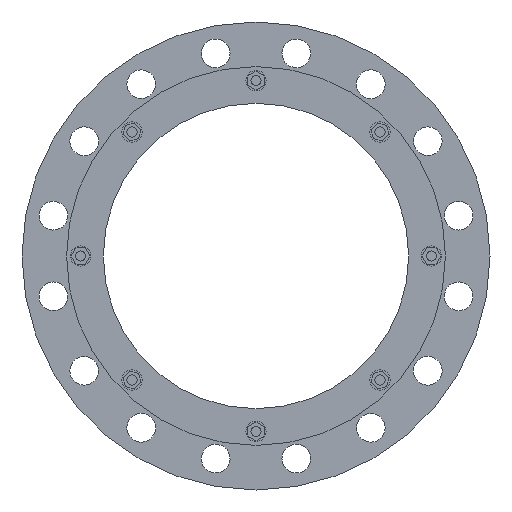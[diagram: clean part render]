
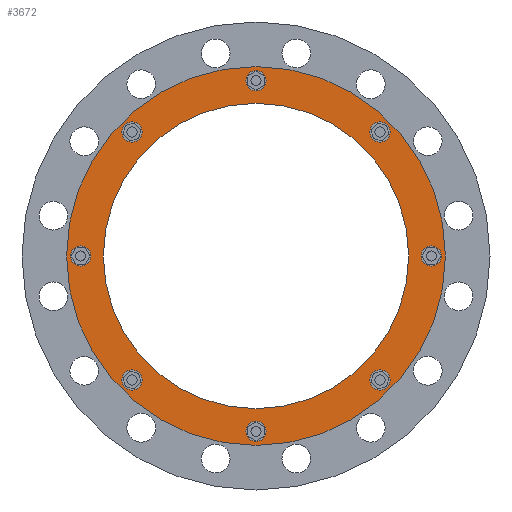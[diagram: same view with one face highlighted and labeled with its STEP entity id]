
A CAD part, front view. The second image highlights one B-rep face of the part: STEP entity #3672.
In plain terms, the highlighted planar face has unit normal (0, -1, 0).
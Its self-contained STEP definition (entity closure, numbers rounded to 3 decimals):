
#911=CARTESIAN_POINT('',(0.,-92.452,0.));
#912=DIRECTION('',(0.,-1.,0.));
#913=DIRECTION('',(1.,0.,0.));
#914=AXIS2_PLACEMENT_3D('',#911,#912,#913);
#916=CARTESIAN_POINT('',(0.,-92.452,0.));
#917=DIRECTION('',(0.,1.,0.));
#918=DIRECTION('',(1.,0.,0.));
#919=AXIS2_PLACEMENT_3D('',#916,#917,#918);
#921=CARTESIAN_POINT('',(208.,-92.452,0.));
#922=DIRECTION('',(0.,-1.,0.));
#923=DIRECTION('',(0.,0.,-1.));
#924=AXIS2_PLACEMENT_3D('',#921,#922,#923);
#926=CARTESIAN_POINT('',(208.,-92.452,0.));
#927=DIRECTION('',(0.,-1.,0.));
#928=DIRECTION('',(0.,0.,1.));
#929=AXIS2_PLACEMENT_3D('',#926,#927,#928);
#931=CARTESIAN_POINT('',(147.078,-92.452,147.078));
#932=DIRECTION('',(0.,-1.,0.));
#933=DIRECTION('',(0.707,0.,-0.707));
#934=AXIS2_PLACEMENT_3D('',#931,#932,#933);
#936=CARTESIAN_POINT('',(147.078,-92.452,147.078));
#937=DIRECTION('',(0.,-1.,0.));
#938=DIRECTION('',(-0.707,0.,0.707));
#939=AXIS2_PLACEMENT_3D('',#936,#937,#938);
#941=CARTESIAN_POINT('',(0.,-92.452,208.));
#942=DIRECTION('',(0.,-1.,0.));
#943=DIRECTION('',(1.,0.,0.));
#944=AXIS2_PLACEMENT_3D('',#941,#942,#943);
#946=CARTESIAN_POINT('',(0.,-92.452,208.));
#947=DIRECTION('',(0.,-1.,0.));
#948=DIRECTION('',(-1.,0.,0.));
#949=AXIS2_PLACEMENT_3D('',#946,#947,#948);
#951=CARTESIAN_POINT('',(-147.078,-92.452,147.078));
#952=DIRECTION('',(0.,-1.,0.));
#953=DIRECTION('',(0.707,0.,0.707));
#954=AXIS2_PLACEMENT_3D('',#951,#952,#953);
#956=CARTESIAN_POINT('',(-147.078,-92.452,147.078));
#957=DIRECTION('',(0.,-1.,0.));
#958=DIRECTION('',(-0.707,0.,-0.707));
#959=AXIS2_PLACEMENT_3D('',#956,#957,#958);
#961=CARTESIAN_POINT('',(-208.,-92.452,0.));
#962=DIRECTION('',(0.,-1.,0.));
#963=DIRECTION('',(0.,0.,1.));
#964=AXIS2_PLACEMENT_3D('',#961,#962,#963);
#966=CARTESIAN_POINT('',(-208.,-92.452,0.));
#967=DIRECTION('',(0.,-1.,0.));
#968=DIRECTION('',(0.,0.,-1.));
#969=AXIS2_PLACEMENT_3D('',#966,#967,#968);
#971=CARTESIAN_POINT('',(-147.078,-92.452,-147.078));
#972=DIRECTION('',(0.,-1.,0.));
#973=DIRECTION('',(-0.707,0.,0.707));
#974=AXIS2_PLACEMENT_3D('',#971,#972,#973);
#976=CARTESIAN_POINT('',(-147.078,-92.452,-147.078));
#977=DIRECTION('',(0.,-1.,0.));
#978=DIRECTION('',(0.707,0.,-0.707));
#979=AXIS2_PLACEMENT_3D('',#976,#977,#978);
#981=CARTESIAN_POINT('',(0.,-92.452,-208.));
#982=DIRECTION('',(0.,-1.,0.));
#983=DIRECTION('',(-1.,0.,0.));
#984=AXIS2_PLACEMENT_3D('',#981,#982,#983);
#986=CARTESIAN_POINT('',(0.,-92.452,-208.));
#987=DIRECTION('',(0.,-1.,0.));
#988=DIRECTION('',(1.,0.,0.));
#989=AXIS2_PLACEMENT_3D('',#986,#987,#988);
#991=CARTESIAN_POINT('',(147.078,-92.452,-147.078));
#992=DIRECTION('',(0.,-1.,0.));
#993=DIRECTION('',(-0.707,0.,-0.707));
#994=AXIS2_PLACEMENT_3D('',#991,#992,#993);
#996=CARTESIAN_POINT('',(147.078,-92.452,-147.078));
#997=DIRECTION('',(0.,-1.,0.));
#998=DIRECTION('',(0.707,0.,0.707));
#999=AXIS2_PLACEMENT_3D('',#996,#997,#998);
#1001=CARTESIAN_POINT('',(0.,-92.452,0.));
#1002=DIRECTION('',(0.,1.,0.));
#1003=DIRECTION('',(1.,0.,0.));
#1004=AXIS2_PLACEMENT_3D('',#1001,#1002,#1003);
#1014=CARTESIAN_POINT('',(0.,-92.452,0.));
#1015=DIRECTION('',(0.,-1.,0.));
#1016=DIRECTION('',(1.,0.,0.));
#1017=AXIS2_PLACEMENT_3D('',#1014,#1015,#1016);
#2385=CARTESIAN_POINT('',(224.6,-92.452,0.));
#2387=VERTEX_POINT('',#2385);
#2388=CARTESIAN_POINT('',(181.,-92.452,0.));
#2390=VERTEX_POINT('',#2388);
#2397=CARTESIAN_POINT('',(-224.6,-92.452,0.));
#2399=VERTEX_POINT('',#2397);
#2400=CARTESIAN_POINT('',(-181.,-92.452,0.));
#2402=VERTEX_POINT('',#2400);
#2439=CARTESIAN_POINT('',(208.,-92.452,-12.));
#2440=CARTESIAN_POINT('',(208.,-92.452,12.));
#2441=VERTEX_POINT('',#2439);
#2442=VERTEX_POINT('',#2440);
#2488=CARTESIAN_POINT('',(155.563,-92.452,138.593));
#2489=VERTEX_POINT('',#2488);
#2490=CARTESIAN_POINT('',(138.593,-92.452,155.563));
#2491=VERTEX_POINT('',#2490);
#2532=CARTESIAN_POINT('',(12.,-92.452,208.));
#2533=VERTEX_POINT('',#2532);
#2534=CARTESIAN_POINT('',(-12.,-92.452,208.));
#2535=VERTEX_POINT('',#2534);
#2576=CARTESIAN_POINT('',(-138.593,-92.452,155.563));
#2577=VERTEX_POINT('',#2576);
#2578=CARTESIAN_POINT('',(-155.563,-92.452,138.593));
#2579=VERTEX_POINT('',#2578);
#2620=CARTESIAN_POINT('',(-208.,-92.452,12.));
#2621=VERTEX_POINT('',#2620);
#2622=CARTESIAN_POINT('',(-208.,-92.452,-12.));
#2623=VERTEX_POINT('',#2622);
#2664=CARTESIAN_POINT('',(-155.563,-92.452,-138.593));
#2665=VERTEX_POINT('',#2664);
#2666=CARTESIAN_POINT('',(-138.593,-92.452,-155.563));
#2667=VERTEX_POINT('',#2666);
#2708=CARTESIAN_POINT('',(-12.,-92.452,-208.));
#2709=VERTEX_POINT('',#2708);
#2710=CARTESIAN_POINT('',(12.,-92.452,-208.));
#2711=VERTEX_POINT('',#2710);
#2752=CARTESIAN_POINT('',(138.593,-92.452,-155.563));
#2753=VERTEX_POINT('',#2752);
#2754=CARTESIAN_POINT('',(155.563,-92.452,-138.593));
#2755=VERTEX_POINT('',#2754);
#3609=CARTESIAN_POINT('',(0.,-92.452,0.));
#3610=DIRECTION('',(0.,1.,0.));
#3611=DIRECTION('',(-1.,0.,0.));
#3612=AXIS2_PLACEMENT_3D('',#3609,#3610,#3611);
#3613=PLANE('',#3612);
#3615=ORIENTED_EDGE('',*,*,#3614,.F.);
#3617=ORIENTED_EDGE('',*,*,#3616,.T.);
#3618=EDGE_LOOP('',(#3615,#3617));
#3619=FACE_OUTER_BOUND('',#3618,.F.);
#3621=ORIENTED_EDGE('',*,*,#3620,.F.);
#3623=ORIENTED_EDGE('',*,*,#3622,.T.);
#3624=EDGE_LOOP('',(#3621,#3623));
#3625=FACE_BOUND('',#3624,.F.);
#3627=ORIENTED_EDGE('',*,*,#3626,.T.);
#3629=ORIENTED_EDGE('',*,*,#3628,.T.);
#3630=EDGE_LOOP('',(#3627,#3629));
#3631=FACE_BOUND('',#3630,.F.);
#3633=ORIENTED_EDGE('',*,*,#3632,.T.);
#3635=ORIENTED_EDGE('',*,*,#3634,.T.);
#3636=EDGE_LOOP('',(#3633,#3635));
#3637=FACE_BOUND('',#3636,.F.);
#3639=ORIENTED_EDGE('',*,*,#3638,.T.);
#3641=ORIENTED_EDGE('',*,*,#3640,.T.);
#3642=EDGE_LOOP('',(#3639,#3641));
#3643=FACE_BOUND('',#3642,.F.);
#3645=ORIENTED_EDGE('',*,*,#3644,.T.);
#3647=ORIENTED_EDGE('',*,*,#3646,.T.);
#3648=EDGE_LOOP('',(#3645,#3647));
#3649=FACE_BOUND('',#3648,.F.);
#3651=ORIENTED_EDGE('',*,*,#3650,.T.);
#3653=ORIENTED_EDGE('',*,*,#3652,.T.);
#3654=EDGE_LOOP('',(#3651,#3653));
#3655=FACE_BOUND('',#3654,.F.);
#3657=ORIENTED_EDGE('',*,*,#3656,.T.);
#3659=ORIENTED_EDGE('',*,*,#3658,.T.);
#3660=EDGE_LOOP('',(#3657,#3659));
#3661=FACE_BOUND('',#3660,.F.);
#3662=ORIENTED_EDGE('',*,*,#3591,.T.);
#3663=ORIENTED_EDGE('',*,*,#3602,.T.);
#3664=EDGE_LOOP('',(#3662,#3663));
#3665=FACE_BOUND('',#3664,.F.);
#3667=ORIENTED_EDGE('',*,*,#3666,.T.);
#3669=ORIENTED_EDGE('',*,*,#3668,.T.);
#3670=EDGE_LOOP('',(#3667,#3669));
#3671=FACE_BOUND('',#3670,.F.);
#3672=ADVANCED_FACE('',(#3619,#3625,#3631,#3637,#3643,#3649,#3655,#3661,#3665,
#3671),#3613,.F.);
#915=CIRCLE('',#914,224.6);
#920=CIRCLE('',#919,224.6);
#925=CIRCLE('',#924,12.);
#930=CIRCLE('',#929,12.);
#935=CIRCLE('',#934,12.);
#940=CIRCLE('',#939,12.);
#945=CIRCLE('',#944,12.);
#950=CIRCLE('',#949,12.);
#955=CIRCLE('',#954,12.);
#960=CIRCLE('',#959,12.);
#965=CIRCLE('',#964,12.);
#970=CIRCLE('',#969,12.);
#975=CIRCLE('',#974,12.);
#980=CIRCLE('',#979,12.);
#985=CIRCLE('',#984,12.);
#990=CIRCLE('',#989,12.);
#995=CIRCLE('',#994,12.);
#1000=CIRCLE('',#999,12.);
#1005=CIRCLE('',#1004,181.);
#1018=CIRCLE('',#1017,181.);
#3591=EDGE_CURVE('',#2709,#2711,#985,.T.);
#3602=EDGE_CURVE('',#2711,#2709,#990,.T.);
#3614=EDGE_CURVE('',#2387,#2399,#915,.T.);
#3616=EDGE_CURVE('',#2387,#2399,#920,.T.);
#3620=EDGE_CURVE('',#2390,#2402,#1005,.T.);
#3622=EDGE_CURVE('',#2390,#2402,#1018,.T.);
#3626=EDGE_CURVE('',#2441,#2442,#925,.T.);
#3628=EDGE_CURVE('',#2442,#2441,#930,.T.);
#3632=EDGE_CURVE('',#2489,#2491,#935,.T.);
#3634=EDGE_CURVE('',#2491,#2489,#940,.T.);
#3638=EDGE_CURVE('',#2533,#2535,#945,.T.);
#3640=EDGE_CURVE('',#2535,#2533,#950,.T.);
#3644=EDGE_CURVE('',#2577,#2579,#955,.T.);
#3646=EDGE_CURVE('',#2579,#2577,#960,.T.);
#3650=EDGE_CURVE('',#2621,#2623,#965,.T.);
#3652=EDGE_CURVE('',#2623,#2621,#970,.T.);
#3656=EDGE_CURVE('',#2665,#2667,#975,.T.);
#3658=EDGE_CURVE('',#2667,#2665,#980,.T.);
#3666=EDGE_CURVE('',#2753,#2755,#995,.T.);
#3668=EDGE_CURVE('',#2755,#2753,#1000,.T.);
